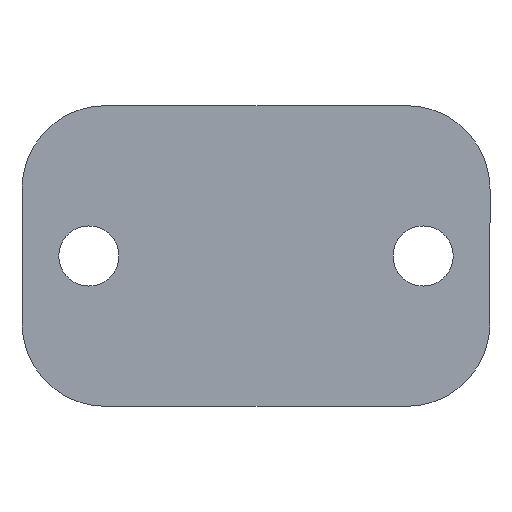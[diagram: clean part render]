
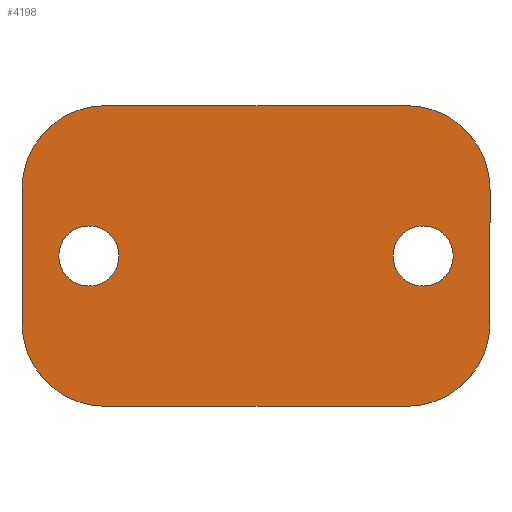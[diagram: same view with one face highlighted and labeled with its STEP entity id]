
A CAD part, front view. The second image highlights one B-rep face of the part: STEP entity #4198.
In plain terms, the highlighted planar face has unit normal (0, -1, 0).
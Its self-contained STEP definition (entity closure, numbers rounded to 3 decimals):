
#20 = CARTESIAN_POINT ( 'NONE',  ( 45., -20., -20. ) ) ;
#94 = VERTEX_POINT ( 'NONE', #723 ) ;
#173 = DIRECTION ( 'NONE',  ( 1., 0., 0. ) ) ;
#183 = VERTEX_POINT ( 'NONE', #3146 ) ;
#333 = DIRECTION ( 'NONE',  ( 0., -1., 0. ) ) ;
#396 = ORIENTED_EDGE ( 'NONE', *, *, #1603, .F. ) ;
#523 = DIRECTION ( 'NONE',  ( 0., 0., 1. ) ) ;
#568 = DIRECTION ( 'NONE',  ( 0., -1., 0. ) ) ;
#581 = EDGE_CURVE ( 'NONE', #652, #3865, #4728, .T. ) ;
#584 = AXIS2_PLACEMENT_3D ( 'NONE', #1824, #3558, #860 ) ;
#628 = CARTESIAN_POINT ( 'NONE',  ( -59., -20., 0. ) ) ;
#652 = VERTEX_POINT ( 'NONE', #1278 ) ;
#723 = CARTESIAN_POINT ( 'NONE',  ( -70., -20., 20. ) ) ;
#788 = VERTEX_POINT ( 'NONE', #5247 ) ;
#801 = CARTESIAN_POINT ( 'NONE',  ( 70., -20., 20. ) ) ;
#807 = EDGE_CURVE ( 'NONE', #4283, #5520, #3079, .T. ) ;
#824 = DIRECTION ( 'NONE',  ( 0., -1., 0. ) ) ;
#860 = DIRECTION ( 'NONE',  ( 1., 0., 0. ) ) ;
#897 = VERTEX_POINT ( 'NONE', #3959 ) ;
#938 = PLANE ( 'NONE',  #4159 ) ;
#952 = EDGE_CURVE ( 'NONE', #3741, #4283, #4382, .T. ) ;
#964 = CARTESIAN_POINT ( 'NONE',  ( 45., -20., 20. ) ) ;
#1101 = ORIENTED_EDGE ( 'NONE', *, *, #4305, .T. ) ;
#1169 = AXIS2_PLACEMENT_3D ( 'NONE', #964, #568, #173 ) ;
#1172 = VERTEX_POINT ( 'NONE', #4272 ) ;
#1278 = CARTESIAN_POINT ( 'NONE',  ( -41., -20., 0. ) ) ;
#1288 = DIRECTION ( 'NONE',  ( 0., -1., 0. ) ) ;
#1348 = CARTESIAN_POINT ( 'NONE',  ( 50., -20., 0. ) ) ;
#1360 = DIRECTION ( 'NONE',  ( 0., -1., 0. ) ) ;
#1371 = EDGE_CURVE ( 'NONE', #788, #183, #1845, .T. ) ;
#1440 = DIRECTION ( 'NONE',  ( 1., 0., 0. ) ) ;
#1603 = EDGE_CURVE ( 'NONE', #183, #788, #1864, .T. ) ;
#1652 = CARTESIAN_POINT ( 'NONE',  ( -45., -20., -45. ) ) ;
#1741 = EDGE_LOOP ( 'NONE', ( #5554, #5398, #1969, #3018, #4581, #1101, #2341, #4255 ) ) ;
#1824 = CARTESIAN_POINT ( 'NONE',  ( -45., -20., -20. ) ) ;
#1845 = CIRCLE ( 'NONE', #5010, 9. ) ;
#1864 = CIRCLE ( 'NONE', #4042, 9. ) ;
#1969 = ORIENTED_EDGE ( 'NONE', *, *, #2395, .T. ) ;
#2062 = CARTESIAN_POINT ( 'NONE',  ( -50., -20., 0. ) ) ;
#2069 = LINE ( 'NONE', #3813, #2980 ) ;
#2115 = DIRECTION ( 'NONE',  ( 0., -1., 0. ) ) ;
#2158 = CARTESIAN_POINT ( 'NONE',  ( -45., -20., -45. ) ) ;
#2186 = DIRECTION ( 'NONE',  ( 0., -1., 0. ) ) ;
#2341 = ORIENTED_EDGE ( 'NONE', *, *, #3697, .T. ) ;
#2395 = EDGE_CURVE ( 'NONE', #5520, #897, #4478, .T. ) ;
#2419 = VECTOR ( 'NONE', #523, 1000. ) ;
#2635 = DIRECTION ( 'NONE',  ( 1., 0., 0. ) ) ;
#2723 = CARTESIAN_POINT ( 'NONE',  ( 70., -20., 20. ) ) ;
#2800 = EDGE_CURVE ( 'NONE', #897, #3662, #5269, .T. ) ;
#2980 = VECTOR ( 'NONE', #3359, 1000. ) ;
#2997 = ORIENTED_EDGE ( 'NONE', *, *, #1371, .F. ) ;
#2998 = DIRECTION ( 'NONE',  ( -1., 0., 0. ) ) ;
#3018 = ORIENTED_EDGE ( 'NONE', *, *, #2800, .T. ) ;
#3030 = LINE ( 'NONE', #4661, #3527 ) ;
#3046 = CARTESIAN_POINT ( 'NONE',  ( -45., -20., 20. ) ) ;
#3061 = ORIENTED_EDGE ( 'NONE', *, *, #4960, .F. ) ;
#3071 = AXIS2_PLACEMENT_3D ( 'NONE', #3046, #2186, #4762 ) ;
#3076 = CIRCLE ( 'NONE', #3071, 25. ) ;
#3079 = LINE ( 'NONE', #2158, #4199 ) ;
#3087 = CIRCLE ( 'NONE', #4163, 9. ) ;
#3102 = CARTESIAN_POINT ( 'NONE',  ( 0., -20., 0. ) ) ;
#3109 = ORIENTED_EDGE ( 'NONE', *, *, #581, .F. ) ;
#3146 = CARTESIAN_POINT ( 'NONE',  ( 41., -20., 0. ) ) ;
#3359 = DIRECTION ( 'NONE',  ( 0., 0., -1. ) ) ;
#3527 = VECTOR ( 'NONE', #2998, 1000. ) ;
#3558 = DIRECTION ( 'NONE',  ( 0., -1., 0. ) ) ;
#3625 = EDGE_LOOP ( 'NONE', ( #2997, #396 ) ) ;
#3662 = VERTEX_POINT ( 'NONE', #801 ) ;
#3697 = EDGE_CURVE ( 'NONE', #1172, #94, #3076, .T. ) ;
#3741 = VERTEX_POINT ( 'NONE', #5295 ) ;
#3748 = AXIS2_PLACEMENT_3D ( 'NONE', #2062, #824, #5212 ) ;
#3813 = CARTESIAN_POINT ( 'NONE',  ( -70., -20., 20. ) ) ;
#3852 = CARTESIAN_POINT ( 'NONE',  ( 45., -20., -45. ) ) ;
#3865 = VERTEX_POINT ( 'NONE', #628 ) ;
#3950 = FACE_OUTER_BOUND ( 'NONE', #1741, .T. ) ;
#3959 = CARTESIAN_POINT ( 'NONE',  ( 70., -20., -20. ) ) ;
#3978 = FACE_BOUND ( 'NONE', #5373, .T. ) ;
#4018 = DIRECTION ( 'NONE',  ( 1., 0., 0. ) ) ;
#4042 = AXIS2_PLACEMENT_3D ( 'NONE', #1348, #4831, #4018 ) ;
#4152 = EDGE_CURVE ( 'NONE', #3662, #5367, #5504, .T. ) ;
#4159 = AXIS2_PLACEMENT_3D ( 'NONE', #3102, #1360, #1440 ) ;
#4163 = AXIS2_PLACEMENT_3D ( 'NONE', #4755, #2115, #2635 ) ;
#4198 = ADVANCED_FACE ( 'NONE', ( #3978, #5317, #3950 ), #938, .T. ) ;
#4199 = VECTOR ( 'NONE', #5156, 1000. ) ;
#4255 = ORIENTED_EDGE ( 'NONE', *, *, #4625, .T. ) ;
#4272 = CARTESIAN_POINT ( 'NONE',  ( -45., -20., 45. ) ) ;
#4283 = VERTEX_POINT ( 'NONE', #1652 ) ;
#4305 = EDGE_CURVE ( 'NONE', #5367, #1172, #3030, .T. ) ;
#4382 = CIRCLE ( 'NONE', #584, 25. ) ;
#4478 = CIRCLE ( 'NONE', #5382, 25. ) ;
#4581 = ORIENTED_EDGE ( 'NONE', *, *, #4152, .T. ) ;
#4582 = CARTESIAN_POINT ( 'NONE',  ( 45., -20., 45. ) ) ;
#4625 = EDGE_CURVE ( 'NONE', #94, #3741, #2069, .T. ) ;
#4661 = CARTESIAN_POINT ( 'NONE',  ( -45., -20., 45. ) ) ;
#4728 = CIRCLE ( 'NONE', #3748, 9. ) ;
#4755 = CARTESIAN_POINT ( 'NONE',  ( -50., -20., 0. ) ) ;
#4762 = DIRECTION ( 'NONE',  ( 1., 0., 0. ) ) ;
#4831 = DIRECTION ( 'NONE',  ( 0., -1., 0. ) ) ;
#4960 = EDGE_CURVE ( 'NONE', #3865, #652, #3087, .T. ) ;
#5010 = AXIS2_PLACEMENT_3D ( 'NONE', #5109, #333, #5505 ) ;
#5109 = CARTESIAN_POINT ( 'NONE',  ( 50., -20., 0. ) ) ;
#5156 = DIRECTION ( 'NONE',  ( 1., 0., 0. ) ) ;
#5212 = DIRECTION ( 'NONE',  ( 1., 0., 0. ) ) ;
#5247 = CARTESIAN_POINT ( 'NONE',  ( 59., -20., 0. ) ) ;
#5269 = LINE ( 'NONE', #2723, #2419 ) ;
#5295 = CARTESIAN_POINT ( 'NONE',  ( -70., -20., -20. ) ) ;
#5317 = FACE_BOUND ( 'NONE', #3625, .T. ) ;
#5367 = VERTEX_POINT ( 'NONE', #4582 ) ;
#5373 = EDGE_LOOP ( 'NONE', ( #3109, #3061 ) ) ;
#5382 = AXIS2_PLACEMENT_3D ( 'NONE', #20, #1288, #5590 ) ;
#5398 = ORIENTED_EDGE ( 'NONE', *, *, #807, .T. ) ;
#5504 = CIRCLE ( 'NONE', #1169, 25. ) ;
#5505 = DIRECTION ( 'NONE',  ( 1., 0., 0. ) ) ;
#5520 = VERTEX_POINT ( 'NONE', #3852 ) ;
#5554 = ORIENTED_EDGE ( 'NONE', *, *, #952, .T. ) ;
#5590 = DIRECTION ( 'NONE',  ( 1., 0., 0. ) ) ;
